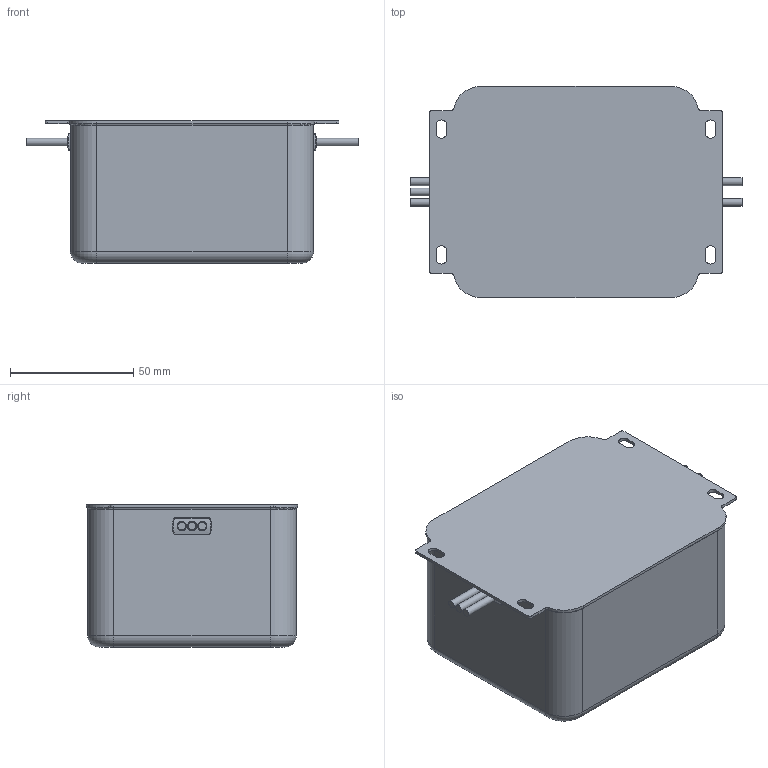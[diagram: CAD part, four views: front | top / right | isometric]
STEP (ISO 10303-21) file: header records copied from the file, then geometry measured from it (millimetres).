
FILE_DESCRIPTION((''),'2;1');
FILE_NAME('P:\Construction\Filter_Marketing\FN\FN2080\FN2080-16-07\FN2080-16-07.stp','2015-05-04T08:58:49',('erika.jenzer'),(''),'Autodesk Inventor 2013','Autodesk Inventor 2013','');
FILE_SCHEMA(('AUTOMOTIVE_DESIGN { 1 0 10303 214 1 1 1 1 }'));
Length unit declared in the file: millimetre
Products named in the file (1): FN2080-16-07
Bounding box: 134.5 x 85.5 x 57.6 mm (x, y, z)
Volume: 474794.5 mm3; surface area: 39552.5 mm2
Topology: 1 solids, 1 shells, 102 faces, 245 edges, 157 vertices
Faces by surface type: cylinder 47, plane 38, torus 8, cone 5, bspline 4
Full cylindrical faces by diameter (mm): 3.1 x5
Entity records: 3433 total; most frequent: CARTESIAN_POINT 942, DIRECTION 490, ORIENTED_EDGE 470, EDGE_CURVE 235, AXIS2_PLACEMENT_3D 190, VERTEX_POINT 157, EDGE_LOOP 132, VECTOR 110
